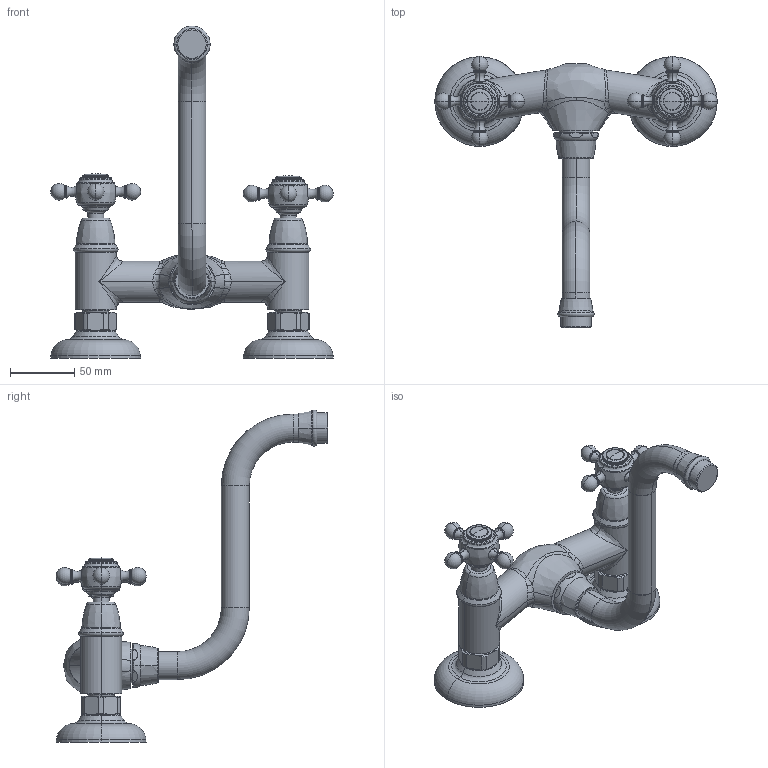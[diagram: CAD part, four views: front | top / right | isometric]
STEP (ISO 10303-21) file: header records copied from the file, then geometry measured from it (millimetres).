
FILE_DESCRIPTION((''),'2;1');
FILE_NAME('F5086_FILE_3D','2014-10-13T',('ivanv'),(''),'PRO/ENGINEER BY PARAMETRIC TECHNOLOGY CORPORATION, 2012130','PRO/ENGINEER BY PARAMETRIC TECHNOLOGY CORPORATION, 2012130','');
FILE_SCHEMA(('CONFIG_CONTROL_DESIGN'));
Length unit declared in the file: millimetre
Products named in the file (1): F5086_FILE_3D
Bounding box: 220 x 211.5 x 258.59 mm (x, y, z)
Volume: 468242.5 mm3; surface area: 104872.9 mm2
Topology: 1 solids, 7 shells, 911 faces, 2380 edges, 1487 vertices
Faces by surface type: plane 373, cylinder 248, torus 138, cone 85, bspline 47, sphere 20
Entity records: 32822 total; most frequent: CARTESIAN_POINT 10923, ORIENTED_EDGE 4720, DIRECTION 4515, EDGE_CURVE 2360, AXIS2_PLACEMENT_3D 1785, VERTEX_POINT 1487, VECTOR 945, LINE 945
